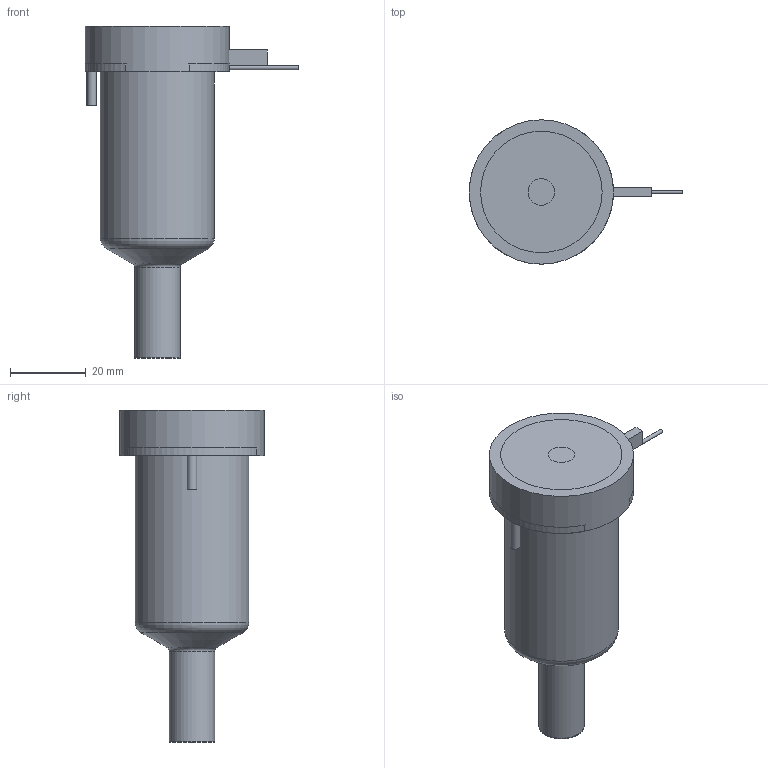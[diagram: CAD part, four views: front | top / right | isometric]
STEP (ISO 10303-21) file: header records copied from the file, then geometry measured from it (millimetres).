
FILE_DESCRIPTION(/* description */ (''),/* implementation_level */ '2;1');
FILE_NAME(/* name */ 'BXYCN16055P4U_200C_a',/* time_stamp */ '2016-02-23T09:21:23+13:00',/* author */ (''),/* organization */ (''),/* preprocessor_version */ 'ST-DEVELOPER v9',/* originating_system */ 'UGS - NX 4.0',/* authorisation */ '');
FILE_SCHEMA (('CONFIG_CONTROL_DESIGN'));
Length unit declared in the file: millimetre
Products named in the file (1): matt48E8yt1a
Bounding box: 56.25 x 38 x 87.42 mm (x, y, z)
Volume: 87994.7 mm3; surface area: 18347.2 mm2
Topology: 2 solids, 2 shells, 67 faces, 149 edges, 97 vertices
Faces by surface type: plane 31, cylinder 22, torus 7, cone 5, bspline 1, sphere 1
Full cylindrical faces by diameter (mm): 1 x2, 1.5 x1, 2.5 x1, 5 x1, 7 x1, 11.61 x1, 11.995 x2, 14.8 x1, 25.4 x1, 30 x1, 38 x1
Entity records: 1951 total; most frequent: CARTESIAN_POINT 487, DIRECTION 302, ORIENTED_EDGE 234, AXIS2_PLACEMENT_3D 130, EDGE_CURVE 117, EDGE_LOOP 104, VERTEX_POINT 89, ADVANCED_FACE 67
